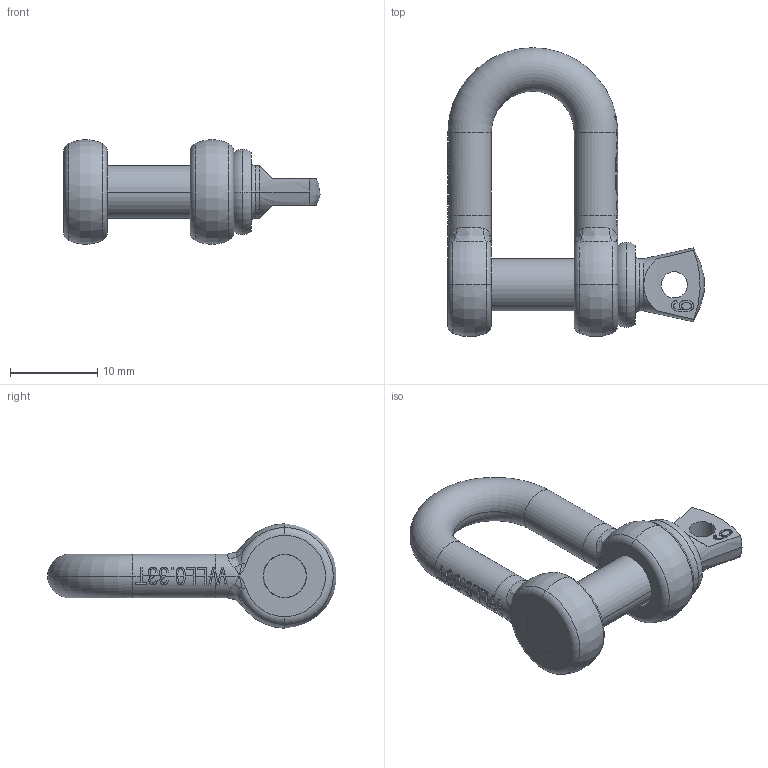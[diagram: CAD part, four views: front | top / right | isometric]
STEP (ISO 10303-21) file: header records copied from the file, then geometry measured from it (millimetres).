
FILE_DESCRIPTION(('STEP AP203'),'1');
FILE_NAME('gpgdbb05.stp','2022-07-04T08:17:04',('TraceParts'),('TraceParts S.A.'),'Spatial InterOp 3D',' ',' ');
FILE_SCHEMA(('CONFIG_CONTROL_DESIGN'));
Length unit declared in the file: millimetre
Products named in the file (1): 1
Bounding box: 29.42 x 33.13 x 12 mm (x, y, z)
Volume: 2541.2 mm3; surface area: 2219.3 mm2
Topology: 2 solids, 2 shells, 309 faces, 845 edges, 532 vertices
Faces by surface type: plane 113, bspline 104, cylinder 56, torus 28, cone 8
Entity records: 14438 total; most frequent: CARTESIAN_POINT 7501, ORIENTED_EDGE 1658, DIRECTION 1109, EDGE_CURVE 829, VERTEX_POINT 532, AXIS2_PLACEMENT_3D 380, LINE 349, VECTOR 349
